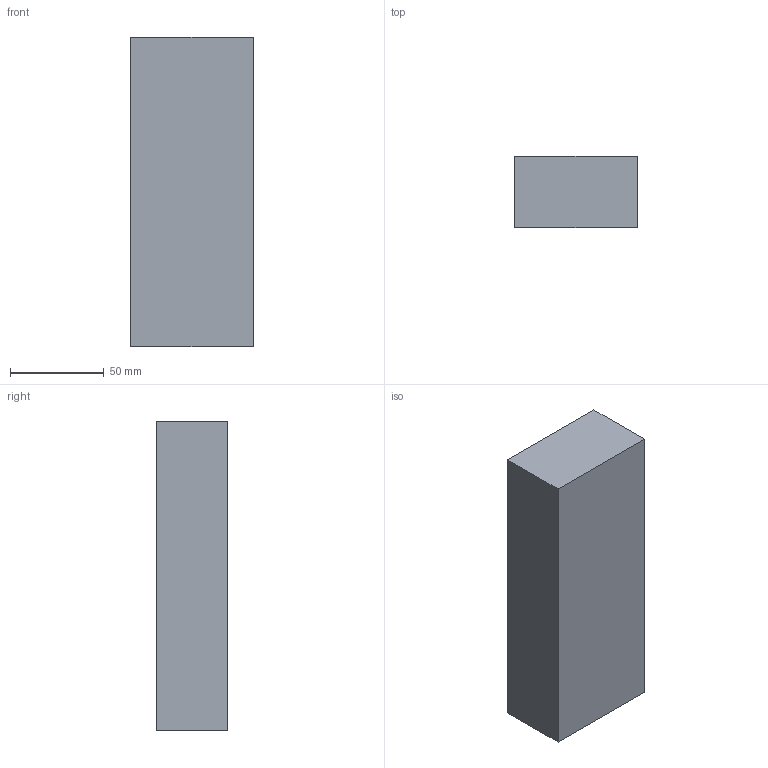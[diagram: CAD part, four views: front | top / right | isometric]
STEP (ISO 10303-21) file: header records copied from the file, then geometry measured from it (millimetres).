
FILE_DESCRIPTION (( 'STEP AP203' ), '1' );
FILE_NAME ('BATTERY-LP-4S-10AH-R1.STEP', '2016-12-12T17:59:46', ( '' ), ( '' ), 'SwSTEP 2.0', 'SolidWorks 2014', '' );
FILE_SCHEMA (( 'CONFIG_CONTROL_DESIGN' ));
Length unit declared in the file: millimetre
Products named in the file (1): BATTERY-LP-4S-10AH-R1
Bounding box: 65 x 38 x 165 mm (x, y, z)
Volume: 407550 mm3; surface area: 38930 mm2
Topology: 1 solids, 1 shells, 6 faces, 12 edges, 8 vertices
Faces by surface type: plane 6
Entity records: 233 total; most frequent: CARTESIAN_POINT 27, DIRECTION 26, ORIENTED_EDGE 24, LINE 12, EDGE_CURVE 12, VECTOR 12, VERTEX_POINT 8, PERSON_AND_ORGANIZATION 8
